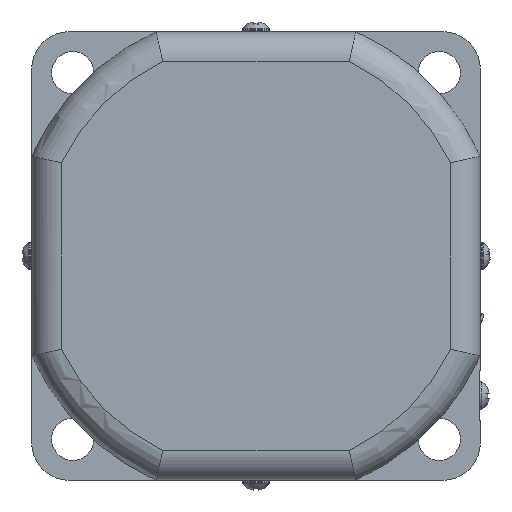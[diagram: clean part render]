
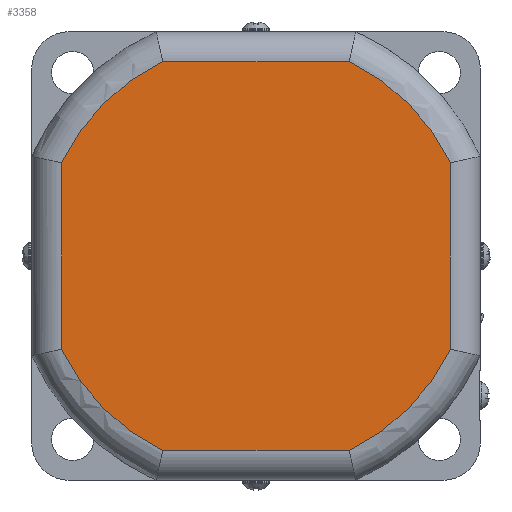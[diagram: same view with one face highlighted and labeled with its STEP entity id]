
A CAD part, left-side view. The second image highlights one B-rep face of the part: STEP entity #3358.
In plain terms, the highlighted planar face has unit normal (-1, 0, 0).
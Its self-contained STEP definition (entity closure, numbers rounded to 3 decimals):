
#308=FACE_OUTER_BOUND('',#517,.T.);
#517=EDGE_LOOP('',(#2404,#2405,#2406,#2407,#2408,#2409,#2410,#2411));
#785=LINE('',#5313,#1027);
#788=LINE('',#5333,#1030);
#789=LINE('',#5386,#1031);
#790=LINE('',#5403,#1032);
#1027=VECTOR('',#4088,37.393);
#1030=VECTOR('',#4093,37.393);
#1031=VECTOR('',#4108,37.393);
#1032=VECTOR('',#4111,37.393);
#1225=CIRCLE('',#3591,43.25);
#1226=CIRCLE('',#3595,43.25);
#1229=CIRCLE('',#3599,43.25);
#1230=CIRCLE('',#3603,43.25);
#1422=VERTEX_POINT('',#5263);
#1424=VERTEX_POINT('',#5280);
#1426=VERTEX_POINT('',#5298);
#1428=VERTEX_POINT('',#5317);
#1429=VERTEX_POINT('',#5335);
#1430=VERTEX_POINT('',#5353);
#1431=VERTEX_POINT('',#5371);
#1432=VERTEX_POINT('',#5388);
#1786=EDGE_CURVE('',#1424,#1422,#1225,.T.);
#1788=EDGE_CURVE('',#1426,#1424,#785,.T.);
#1792=EDGE_CURVE('',#1422,#1428,#788,.T.);
#1794=EDGE_CURVE('',#1429,#1426,#1226,.T.);
#1798=EDGE_CURVE('',#1428,#1430,#1229,.T.);
#1800=EDGE_CURVE('',#1431,#1429,#789,.T.);
#1802=EDGE_CURVE('',#1430,#1432,#790,.T.);
#1803=EDGE_CURVE('',#1432,#1431,#1230,.T.);
#2404=ORIENTED_EDGE('',*,*,#1802,.F.);
#2405=ORIENTED_EDGE('',*,*,#1798,.F.);
#2406=ORIENTED_EDGE('',*,*,#1792,.F.);
#2407=ORIENTED_EDGE('',*,*,#1786,.F.);
#2408=ORIENTED_EDGE('',*,*,#1788,.F.);
#2409=ORIENTED_EDGE('',*,*,#1794,.F.);
#2410=ORIENTED_EDGE('',*,*,#1800,.F.);
#2411=ORIENTED_EDGE('',*,*,#1803,.F.);
#3018=PLANE('',#3605);
#3358=ADVANCED_FACE('',(#308),#3018,.F.);
#3591=AXIS2_PLACEMENT_3D('',#5295,#4084,#4085);
#3595=AXIS2_PLACEMENT_3D('',#5350,#4096,#4097);
#3599=AXIS2_PLACEMENT_3D('',#5369,#4104,#4105);
#3603=AXIS2_PLACEMENT_3D('',#5405,#4114,#4115);
#3605=AXIS2_PLACEMENT_3D('',#5407,#4118,#4119);
#4084=DIRECTION('center_axis',(1.,0.,0.));
#4085=DIRECTION('ref_axis',(0.,-0.707,-0.707));
#4088=DIRECTION('',(0.,0.,-1.));
#4093=DIRECTION('',(0.,1.,0.));
#4096=DIRECTION('center_axis',(1.,0.,0.));
#4097=DIRECTION('ref_axis',(0.,-0.707,0.707));
#4104=DIRECTION('center_axis',(1.,0.,0.));
#4105=DIRECTION('ref_axis',(0.,0.707,-0.707));
#4108=DIRECTION('',(0.,-1.,0.));
#4111=DIRECTION('',(0.,0.,1.));
#4114=DIRECTION('center_axis',(1.,0.,0.));
#4115=DIRECTION('ref_axis',(0.,0.707,0.707));
#4118=DIRECTION('center_axis',(1.,0.,0.));
#4119=DIRECTION('ref_axis',(0.,0.,-1.));
#5263=CARTESIAN_POINT('',(-17.8,-18.697,-39.));
#5280=CARTESIAN_POINT('',(-17.8,-39.,-18.697));
#5295=CARTESIAN_POINT('Origin',(-17.8,0.,
0.));
#5298=CARTESIAN_POINT('',(-17.8,-39.,18.697));
#5313=CARTESIAN_POINT('',(-17.8,-39.,18.697));
#5317=CARTESIAN_POINT('',(-17.8,18.697,-39.));
#5333=CARTESIAN_POINT('',(-17.8,-18.697,-39.));
#5335=CARTESIAN_POINT('',(-17.8,-18.697,39.));
#5350=CARTESIAN_POINT('Origin',(-17.8,0.,
0.));
#5353=CARTESIAN_POINT('',(-17.8,39.,-18.697));
#5369=CARTESIAN_POINT('Origin',(-17.8,0.,
0.));
#5371=CARTESIAN_POINT('',(-17.8,18.697,39.));
#5386=CARTESIAN_POINT('',(-17.8,18.697,39.));
#5388=CARTESIAN_POINT('',(-17.8,39.,18.697));
#5403=CARTESIAN_POINT('',(-17.8,39.,-18.697));
#5405=CARTESIAN_POINT('Origin',(-17.8,0.,
0.));
#5407=CARTESIAN_POINT('Origin',(-17.8,0.,
0.));
